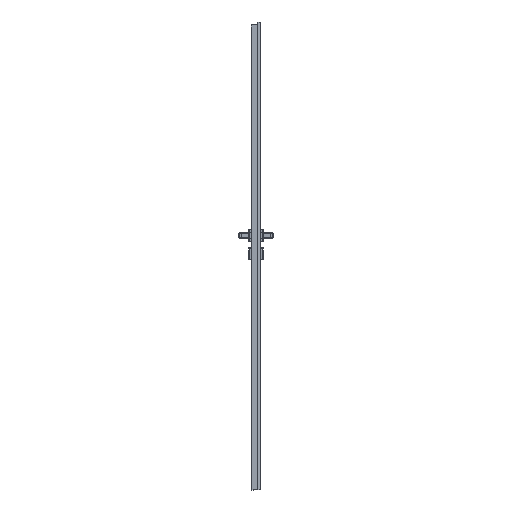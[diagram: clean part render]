
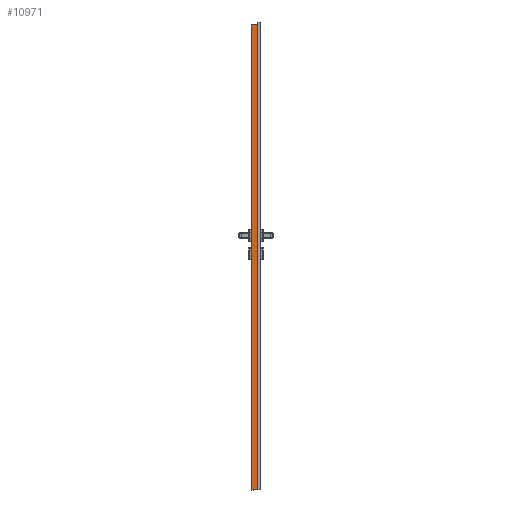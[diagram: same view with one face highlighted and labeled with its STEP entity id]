
A CAD part, left-side view. The second image highlights one B-rep face of the part: STEP entity #10971.
In plain terms, the highlighted planar face has unit normal (-1, 0, 0).
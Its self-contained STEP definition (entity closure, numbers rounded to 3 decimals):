
#6186=FACE_OUTER_BOUND('',#19860,.T.);
#10971=ADVANCED_FACE('',(#6186),#15509,.F.);
#15509=PLANE('',#85589);
#19860=EDGE_LOOP('',(#26811,#26812,#26813,#26814,#26815));
#26811=ORIENTED_EDGE('',*,*,#57737,.T.);
#26812=ORIENTED_EDGE('',*,*,#57740,.T.);
#26813=ORIENTED_EDGE('',*,*,#57741,.T.);
#26814=ORIENTED_EDGE('',*,*,#57565,.F.);
#26815=ORIENTED_EDGE('',*,*,#57742,.T.);
#49754=VERTEX_POINT('',#116783);
#49755=VERTEX_POINT('',#116785);
#49887=VERTEX_POINT('',#117298);
#49889=VERTEX_POINT('',#117301);
#49891=VERTEX_POINT('',#117307);
#57565=EDGE_CURVE('',#49754,#49755,#69412,.T.);
#57737=EDGE_CURVE('',#49889,#49887,#69536,.T.);
#57740=EDGE_CURVE('',#49887,#49891,#69539,.T.);
#57741=EDGE_CURVE('',#49891,#49755,#69540,.T.);
#57742=EDGE_CURVE('',#49754,#49889,#69541,.T.);
#69412=LINE('',#116784,#77494);
#69536=LINE('',#117300,#77618);
#69539=LINE('',#117306,#77621);
#69540=LINE('',#117308,#77622);
#69541=LINE('',#117309,#77623);
#77494=VECTOR('',#92821,1.);
#77618=VECTOR('',#93041,1.);
#77621=VECTOR('',#93046,1.);
#77622=VECTOR('',#93047,1.);
#77623=VECTOR('',#93048,1.);
#85589=AXIS2_PLACEMENT_3D('',#117310,#93049,#93050);
#92821=DIRECTION('',(0.,0.,-1.));
#93041=DIRECTION('',(0.,0.,-1.));
#93046=DIRECTION('',(0.,-0.894,-0.447));
#93047=DIRECTION('',(0.,-1.,0.));
#93048=DIRECTION('',(0.,1.,0.));
#93049=DIRECTION('',(1.,0.,0.));
#93050=DIRECTION('',(0.,0.,-1.));
#116783=CARTESIAN_POINT('',(-308.985,-26.,2016.999));
#116784=CARTESIAN_POINT('',(-308.985,-26.,2250.));
#116785=CARTESIAN_POINT('',(-308.985,-26.,0.));
#117298=CARTESIAN_POINT('',(-308.985,0.,1.));
#117300=CARTESIAN_POINT('',(-308.985,0.,2250.));
#117301=CARTESIAN_POINT('',(-308.985,0.,2016.999));
#117306=CARTESIAN_POINT('',(-308.985,899.6,450.8));
#117307=CARTESIAN_POINT('',(-308.985,-2.,0.));
#117308=CARTESIAN_POINT('',(-308.985,0.,0.));
#117309=CARTESIAN_POINT('',(-308.985,0.,2016.999));
#117310=CARTESIAN_POINT('',(-308.985,0.,2250.));
